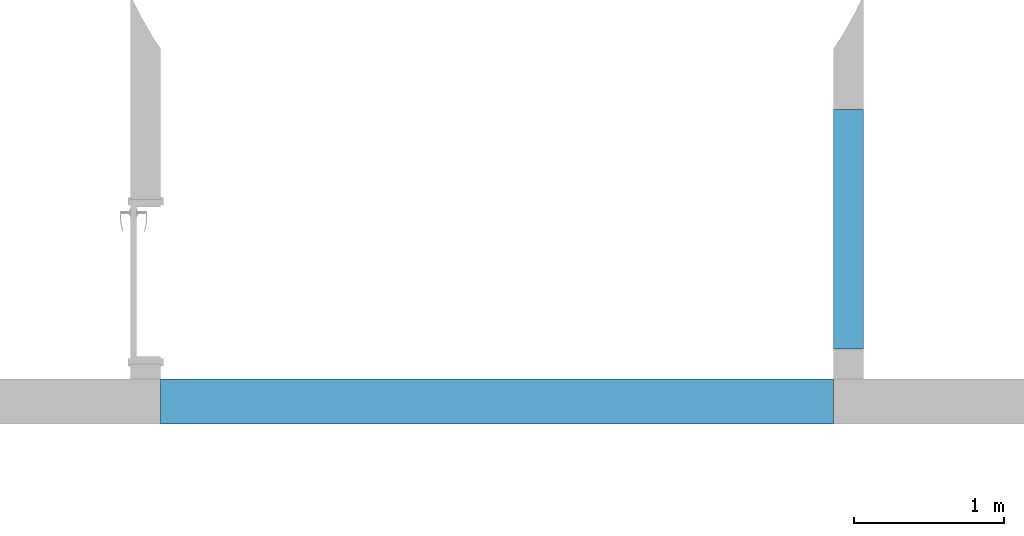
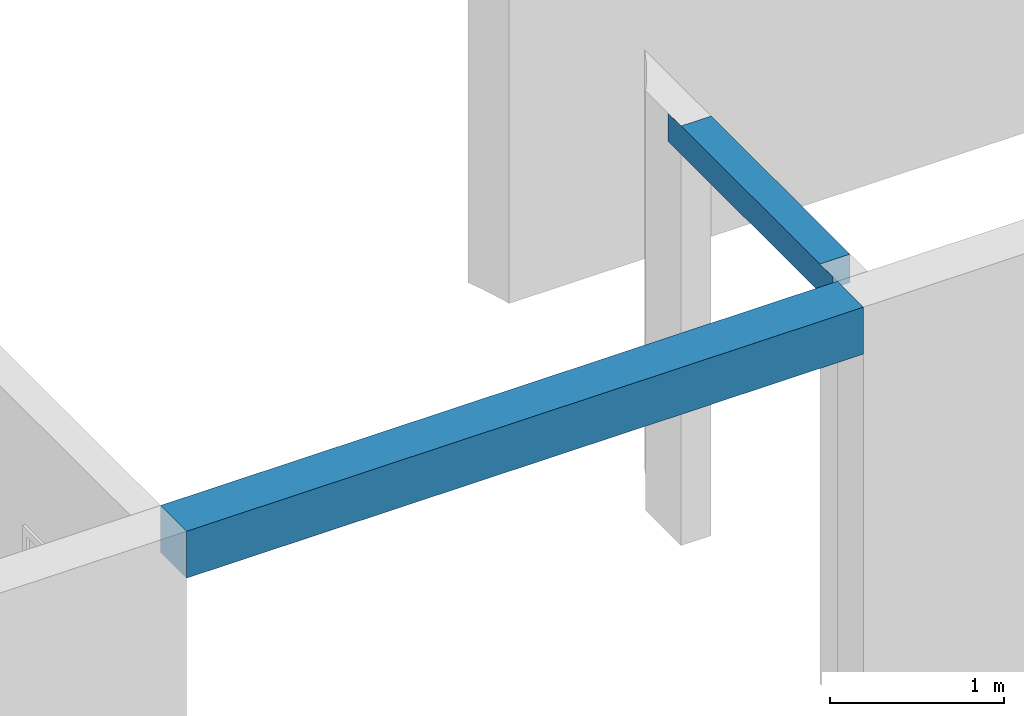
# One storey, part 1 of 6: 2 beams.
"""IFC4 building model written with IfcOpenShell, lengths in millimetres."""

from ifc_helpers import new_model, entity, si_unit, converted_unit, derived_unit, direction, frame, origin_with_axes, place, context, subcontext, project, spatial, polygons, material, type_object, element, save


model = new_model("IFC4")

# Units and contexts
model_context = context("Model", 3, precision=0.01, world=origin_with_axes(), true_north=direction((0.0, 1.0)))
body_context = subcontext(model_context, "Body", "Model", "MODEL_VIEW")
ifc_project = project(units=[si_unit("LENGTHUNIT", "METRE", prefix="MILLI"), si_unit("AREAUNIT", "SQUARE_METRE"), si_unit("VOLUMEUNIT", "CUBIC_METRE"), converted_unit("PLANEANGLEUNIT", "DEGREE", entity("IfcPlaneAngleMeasure", 0.0174532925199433), si_unit("PLANEANGLEUNIT", "RADIAN"), dimensions=[0, 0, 0, 0, 0, 0, 0]), converted_unit("TIMEUNIT", "Year", entity("IfcTimeMeasure", 31557600.0), si_unit("TIMEUNIT", "SECOND"), dimensions=[0, 0, 1, 0, 0, 0, 0]), si_unit("MASSUNIT", "GRAM", prefix="KILO"), si_unit("THERMODYNAMICTEMPERATUREUNIT", "DEGREE_CELSIUS"), si_unit("LUMINOUSINTENSITYUNIT", "LUMEN"), si_unit("ENERGYUNIT", "JOULE", prefix="MEGA"), derived_unit("THERMALCONDUCTANCEUNIT", [(si_unit("POWERUNIT", "WATT"), 1), (si_unit("LENGTHUNIT", "METRE"), -1), (si_unit("THERMODYNAMICTEMPERATUREUNIT", "KELVIN"), -1)]), derived_unit("SPECIFICHEATCAPACITYUNIT", [(si_unit("ENERGYUNIT", "JOULE"), 1), (si_unit("MASSUNIT", "GRAM", prefix="KILO"), -1), (si_unit("THERMODYNAMICTEMPERATUREUNIT", "KELVIN"), -1)]), derived_unit("MASSDENSITYUNIT", [(si_unit("MASSUNIT", "GRAM", prefix="KILO"), 1), (si_unit("VOLUMEUNIT", "CUBIC_METRE"), -1)])], contexts=[model_context])

# Site, building, storey
site_placement = place(None, origin_with_axes())
site = spatial("IfcSite", under=ifc_project, at=site_placement, Name="Exteriér", CompositionType="ELEMENT")
building_placement = place(site_placement, origin_with_axes())
building = spatial("IfcBuilding", under=site, at=building_placement, Name="Univerzitní lezecké centrum", CompositionType="ELEMENT")
storey_placement = place(building_placement, origin_with_axes())
storey = spatial("IfcBuildingStorey", under=building, at=storey_placement, Name="1.NP", CompositionType="ELEMENT", Elevation=0.0)

# Beams
ifc_material = material(Name="Beton vyztužený")
beam_type_1 = type_object("IfcBeamType", Name="Beton vyztužený 300 x 330", PredefinedType="BEAM")
beam_1_placement = place(storey_placement, frame((0.01424247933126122, -150.0000006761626, 2830.002039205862), z_axis=(0.0, 0.0, 1.0), x_axis=(0.0, -1.0, 0.0)))
element("IfcBeam", 1, at=beam_1_placement, inside=storey, type_object=beam_type_1, material=ifc_material, Name="St04", PredefinedType="BEAM", context=body_context, shape_type="Tessellation", body=[
    polygons([(149.9999993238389, 4700.07934447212, -0.002039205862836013), (-150.0000006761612, 4700.025898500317, -0.002039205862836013), (-150.0000006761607, 199.9857633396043, -0.002039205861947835), (149.9999993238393, 200.0142482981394, -0.002039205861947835), (149.9999993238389, 4700.07934447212, -330.0020392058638), (-150.0000006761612, 4700.025898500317, -330.0020392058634), (-150.0000006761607, 199.9857627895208, -330.0020392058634), (149.9999993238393, 200.014247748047, -330.0020392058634)], [[[1, 2, 3, 4]], [[5, 6, 2, 1]], [[2, 6, 7, 3]], [[3, 7, 8, 4]], [[5, 1, 4, 8]], [[6, 5, 8, 7]]], closed=True),
])
beam_type_2 = type_object("IfcBeamType", Name="Beton vyztužený 200 x 200", PredefinedType="BEAM")
beam_2_placement = place(storey_placement, frame((4799.951161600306, 1950.454175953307, 2830.000000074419), z_axis=(0.0, 0.0, 1.0), x_axis=(-1.0, 0.0, 0.0)))
element("IfcBeam", 2, at=beam_2_placement, inside=storey, type_object=beam_type_2, material=ifc_material, Name="St05", PredefinedType="BEAM", context=body_context, shape_type="Tessellation", body=[
    polygons([(99.99999999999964, 0.0, 0.0), (99.99999999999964, 1900.0, 0.0), (99.92000919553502, 1900.0, -7.441824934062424e-08), (99.94665126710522, 1750.45418388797, -7.441824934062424e-08), (-100.0000000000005, 1750.418562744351, -7.441824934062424e-08), (-99.99999999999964, 149.9514593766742, -7.441824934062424e-08), (99.91102062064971, 149.9734198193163, -7.441824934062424e-08), (99.92749289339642, 0.0, -7.441824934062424e-08), (99.99999999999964, 0.0, -200.0000000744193), (99.99999999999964, 1900.0, -200.0000000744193), (99.92000919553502, 1900.0, -200.0000000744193), (99.94665126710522, 1750.45418388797, -200.0000000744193), (-100.0000000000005, 1750.418562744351, -200.0000000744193), (-99.99999999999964, 149.9514593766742, -200.0000000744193), (99.91102062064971, 149.9734198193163, -200.0000000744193), (99.92748865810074, 0.0, -200.0000000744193)], [[[1, 2, 3, 4, 5, 6, 7, 8]], [[2, 1, 9, 10]], [[2, 10, 11, 3]], [[11, 12, 4, 3]], [[4, 12, 13, 5]], [[14, 6, 5, 13]], [[14, 15, 7, 6]], [[15, 16, 8, 7]], [[9, 1, 8, 16]], [[14, 13, 12, 11, 10, 9, 16, 15]]], closed=True),
])

save(model, "model.ifc")
